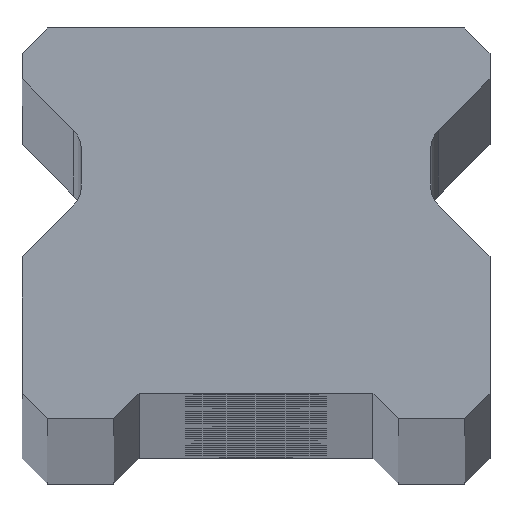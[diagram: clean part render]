
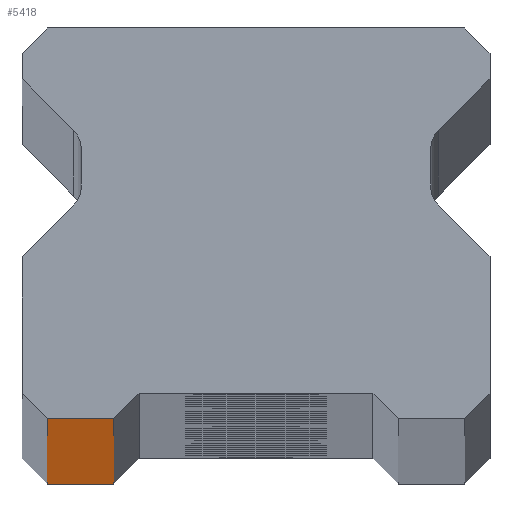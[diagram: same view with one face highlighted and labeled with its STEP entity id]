
A CAD part, top view. The second image highlights one B-rep face of the part: STEP entity #5418.
In plain terms, the highlighted planar face has unit normal (0, -1, 0).
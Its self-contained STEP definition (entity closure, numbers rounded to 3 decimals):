
#311 = EDGE_LOOP ( 'NONE', ( #4323, #4410, #2108, #4593 ) ) ;
#550 = DIRECTION ( 'NONE',  ( 0., 0., -1. ) ) ;
#555 = DIRECTION ( 'NONE',  ( 0., 1., 0. ) ) ;
#740 = VECTOR ( 'NONE', #4919, 1000. ) ;
#843 = VECTOR ( 'NONE', #3653, 1000. ) ;
#975 = PLANE ( 'NONE',  #4989 ) ;
#1078 = EDGE_CURVE ( 'NONE', #3095, #1183, #4841, .T. ) ;
#1183 = VERTEX_POINT ( 'NONE', #1480 ) ;
#1204 = CARTESIAN_POINT ( 'NONE',  ( 11.5, 0., -920. ) ) ;
#1472 = CARTESIAN_POINT ( 'NONE',  ( -7., 0., -920. ) ) ;
#1480 = CARTESIAN_POINT ( 'NONE',  ( -7., 0., 920. ) ) ;
#1568 = CARTESIAN_POINT ( 'NONE',  ( -7., 0., -920. ) ) ;
#2108 = ORIENTED_EDGE ( 'NONE', *, *, #1078, .F. ) ;
#2137 = CARTESIAN_POINT ( 'NONE',  ( -10.25, 0., -920. ) ) ;
#2275 = CARTESIAN_POINT ( 'NONE',  ( -10.25, 0., 920. ) ) ;
#2427 = LINE ( 'NONE', #1204, #4403 ) ;
#2754 = FACE_OUTER_BOUND ( 'NONE', #311, .T. ) ;
#2808 = CARTESIAN_POINT ( 'NONE',  ( -10.25, 0., 920. ) ) ;
#3049 = VECTOR ( 'NONE', #550, 1000. ) ;
#3095 = VERTEX_POINT ( 'NONE', #2808 ) ;
#3207 = CARTESIAN_POINT ( 'NONE',  ( 11.5, 0., 920. ) ) ;
#3614 = EDGE_CURVE ( 'NONE', #4349, #1183, #4008, .T. ) ;
#3653 = DIRECTION ( 'NONE',  ( 0., 0., 1. ) ) ;
#3764 = EDGE_CURVE ( 'NONE', #3844, #4349, #2427, .T. ) ;
#3844 = VERTEX_POINT ( 'NONE', #2137 ) ;
#4008 = LINE ( 'NONE', #1472, #843 ) ;
#4083 = DIRECTION ( 'NONE',  ( -1., 0., 0. ) ) ;
#4193 = EDGE_CURVE ( 'NONE', #3095, #3844, #4214, .T. ) ;
#4214 = LINE ( 'NONE', #2275, #3049 ) ;
#4323 = ORIENTED_EDGE ( 'NONE', *, *, #3764, .T. ) ;
#4349 = VERTEX_POINT ( 'NONE', #1568 ) ;
#4403 = VECTOR ( 'NONE', #5522, 1000. ) ;
#4410 = ORIENTED_EDGE ( 'NONE', *, *, #3614, .T. ) ;
#4593 = ORIENTED_EDGE ( 'NONE', *, *, #4193, .T. ) ;
#4841 = LINE ( 'NONE', #4845, #740 ) ;
#4845 = CARTESIAN_POINT ( 'NONE',  ( 11.5, 0., 920. ) ) ;
#4919 = DIRECTION ( 'NONE',  ( 1., 0., 0. ) ) ;
#4989 = AXIS2_PLACEMENT_3D ( 'NONE', #3207, #555, #4083 ) ;
#5418 = ADVANCED_FACE ( 'NONE', ( #2754 ), #975, .F. ) ;
#5522 = DIRECTION ( 'NONE',  ( 1., 0., 0. ) ) ;
